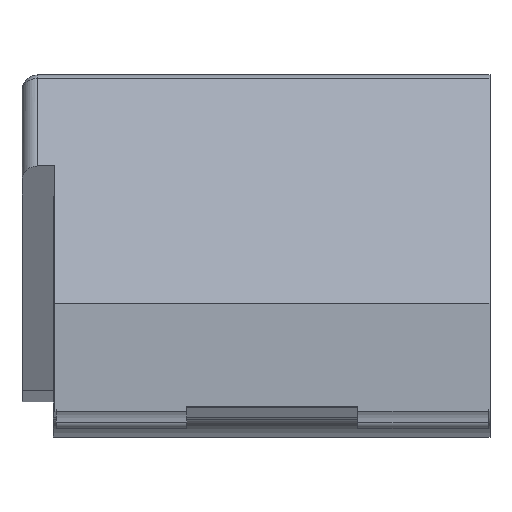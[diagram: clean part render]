
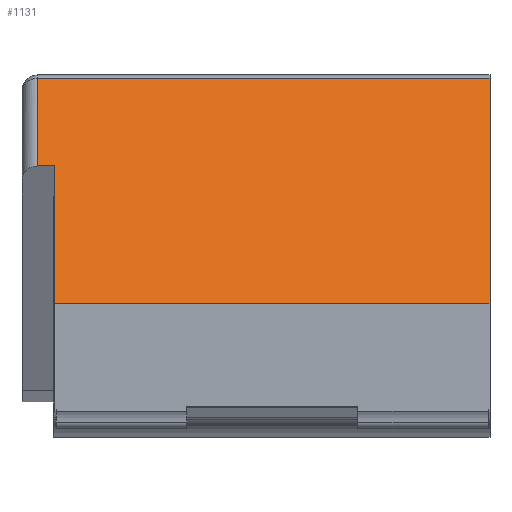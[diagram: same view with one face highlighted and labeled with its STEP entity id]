
A CAD part, top view. The second image highlights one B-rep face of the part: STEP entity #1131.
In plain terms, the highlighted planar face has unit normal (0, 0.772, 0.635).
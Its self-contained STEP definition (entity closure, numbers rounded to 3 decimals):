
#120=FACE_OUTER_BOUND('',#180,.T.);
#180=EDGE_LOOP('',(#902,#903,#904,#905,#906,#907));
#273=LINE('',#1824,#393);
#276=LINE('',#1831,#396);
#277=LINE('',#1834,#397);
#285=LINE('',#1852,#405);
#286=LINE('',#1854,#406);
#287=LINE('',#1855,#407);
#393=VECTOR('',#1486,10.);
#396=VECTOR('',#1493,10.);
#397=VECTOR('',#1496,10.);
#405=VECTOR('',#1510,10.);
#406=VECTOR('',#1511,10.);
#407=VECTOR('',#1512,10.);
#516=VERTEX_POINT('',#1809);
#521=VERTEX_POINT('',#1822);
#522=VERTEX_POINT('',#1827);
#524=VERTEX_POINT('',#1833);
#531=VERTEX_POINT('',#1851);
#532=VERTEX_POINT('',#1853);
#658=EDGE_CURVE('',#521,#516,#273,.T.);
#662=EDGE_CURVE('',#516,#522,#276,.T.);
#663=EDGE_CURVE('',#522,#524,#277,.T.);
#673=EDGE_CURVE('',#531,#521,#285,.T.);
#674=EDGE_CURVE('',#531,#532,#286,.T.);
#675=EDGE_CURVE('',#532,#524,#287,.T.);
#902=ORIENTED_EDGE('',*,*,#662,.F.);
#903=ORIENTED_EDGE('',*,*,#658,.F.);
#904=ORIENTED_EDGE('',*,*,#673,.F.);
#905=ORIENTED_EDGE('',*,*,#674,.T.);
#906=ORIENTED_EDGE('',*,*,#675,.T.);
#907=ORIENTED_EDGE('',*,*,#663,.F.);
#1075=PLANE('',#1245);
#1131=ADVANCED_FACE('',(#120),#1075,.T.);
#1245=AXIS2_PLACEMENT_3D('',#1850,#1508,#1509);
#1486=DIRECTION('',(0.,0.635,-0.772));
#1493=DIRECTION('',(1.,0.,0.));
#1496=DIRECTION('',(0.,-0.635,0.772));
#1508=DIRECTION('center_axis',(0.,0.772,0.635));
#1509=DIRECTION('ref_axis',(0.,-0.635,0.772));
#1510=DIRECTION('',(-1.,0.,0.));
#1511=DIRECTION('',(0.,-0.635,0.772));
#1512=DIRECTION('',(1.,0.,0.));
#1809=CARTESIAN_POINT('',(-15.1,24.726,-3.397));
#1822=CARTESIAN_POINT('',(-15.1,19.085,3.459));
#1824=CARTESIAN_POINT('',(-15.1,23.611,-2.041));
#1827=CARTESIAN_POINT('',(14.,24.726,-3.397));
#1831=CARTESIAN_POINT('',(-14.1,24.726,-3.397));
#1833=CARTESIAN_POINT('',(14.,10.246,14.2));
#1834=CARTESIAN_POINT('',(14.,18.51,4.157));
#1850=CARTESIAN_POINT('Origin',(-14.1,25.503,-4.341));
#1851=CARTESIAN_POINT('',(-14.,19.085,3.459));
#1852=CARTESIAN_POINT('',(-14.1,19.085,3.459));
#1853=CARTESIAN_POINT('',(-14.,10.246,14.2));
#1854=CARTESIAN_POINT('',(-14.,18.51,4.157));
#1855=CARTESIAN_POINT('',(-14.1,10.246,14.2));
